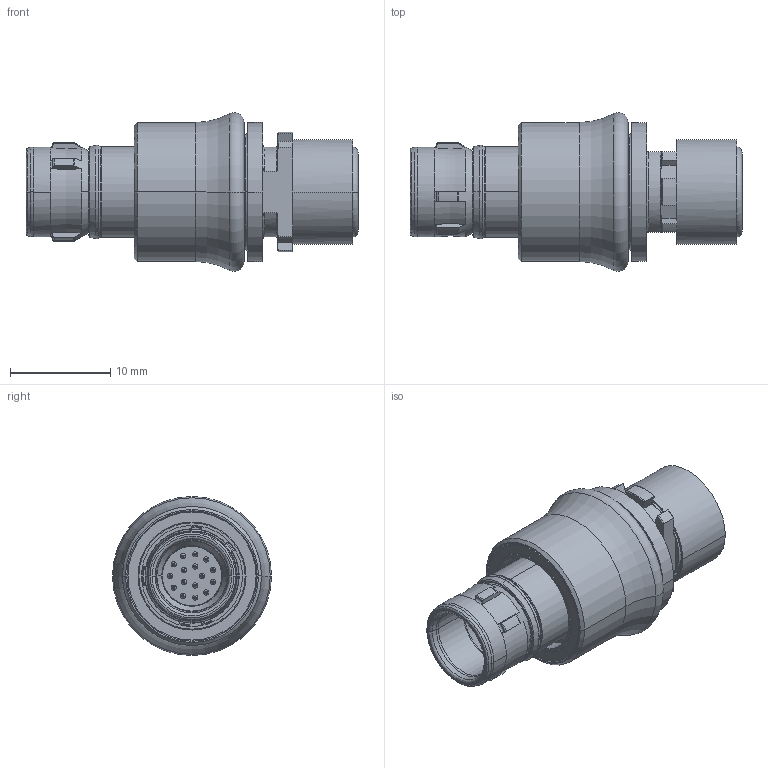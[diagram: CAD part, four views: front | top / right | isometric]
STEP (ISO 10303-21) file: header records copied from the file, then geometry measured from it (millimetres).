
FILE_DESCRIPTION((''),'2;1');
FILE_NAME('00050988--','2020-10-27T12:10:25',('EUnterhaslberger'),(''),'CREO PARAMETRIC BY PTC INC, 2018300','CREO PARAMETRIC BY PTC INC, 2018300','');
FILE_SCHEMA(('AP242_MANAGED_MODEL_BASED_3D_ENGINEERING_MIM_LF { 1 0 10303 442 1 1 4 }'));
Length unit declared in the file: millimetre
Products named in the file (1): 00050988--
Bounding box: 33.2 x 15.9 x 15.9 mm (x, y, z)
Volume: 2432.2 mm3; surface area: 5033.3 mm2
Topology: 1 solids, 1 shells, 856 faces, 2359 edges, 1476 vertices
Faces by surface type: cylinder 310, plane 227, torus 131, cone 124, bspline 32, sphere 32
Entity records: 35474 total; most frequent: CARTESIAN_POINT 7417, DIRECTION 4868, ORIENTED_EDGE 4590, EDGE_CURVE 2295, AXIS2_PLACEMENT_3D 2058, VERTEX_POINT 1476, CIRCLE 1234, EDGE_LOOP 943
